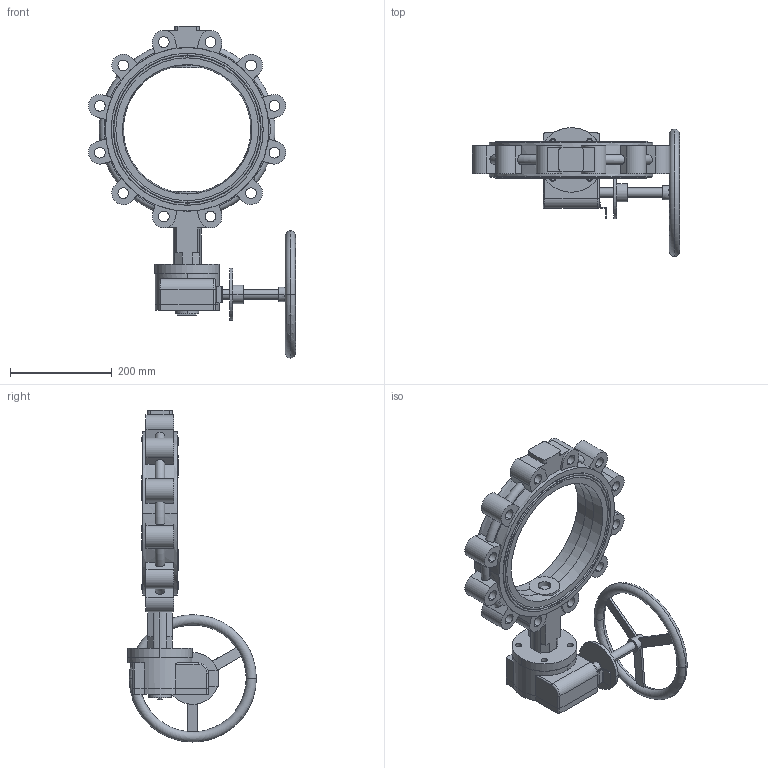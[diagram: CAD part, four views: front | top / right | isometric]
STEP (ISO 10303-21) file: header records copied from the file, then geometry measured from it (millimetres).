
FILE_DESCRIPTION (( 'STEP AP203' ), '1' );
FILE_NAME ('DN250凸耳涡轮头.STEP', '2026-05-25T05:19:04', ( '微软用户' ), ( '微软中国' ), 'SwSTEP 2.0', 'SolidWorks 2024', '' );
FILE_SCHEMA (( 'CONFIG_CONTROL_DESIGN' ));
Length unit declared in the file: millimetre
Products named in the file (4): DN250凸耳涡轮头; 10寸涡轮头; 250凸耳PN10-16，24.5公斤; 衬胶10寸
Assembly tree (3 placements, depth 2):
  DN250凸耳涡轮头
    250凸耳PN10-16，24.5公斤
    衬胶10寸
    10寸涡轮头
Bounding box: 406.93 x 253 x 652.5 mm (x, y, z)
Volume: 5190863.9 mm3; surface area: 849448.6 mm2
Topology: 6 solids, 6 shells, 368 faces, 977 edges, 635 vertices
Faces by surface type: plane 189, cylinder 143, torus 24, cone 12
Entity records: 13449 total; most frequent: CARTESIAN_POINT 3603, DIRECTION 2042, ORIENTED_EDGE 1950, EDGE_CURVE 975, AXIS2_PLACEMENT_3D 775, VERTEX_POINT 635, VECTOR 492, LINE 492
